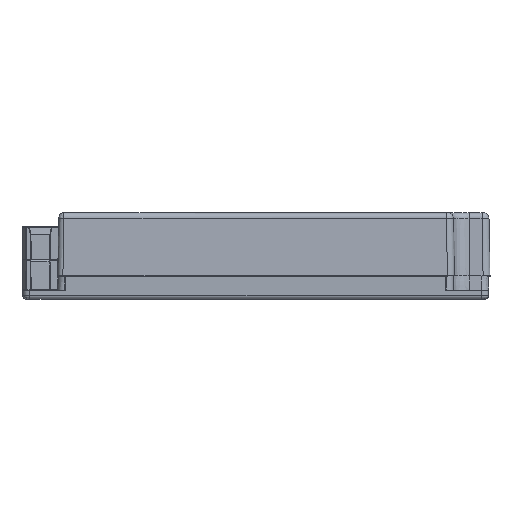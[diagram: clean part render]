
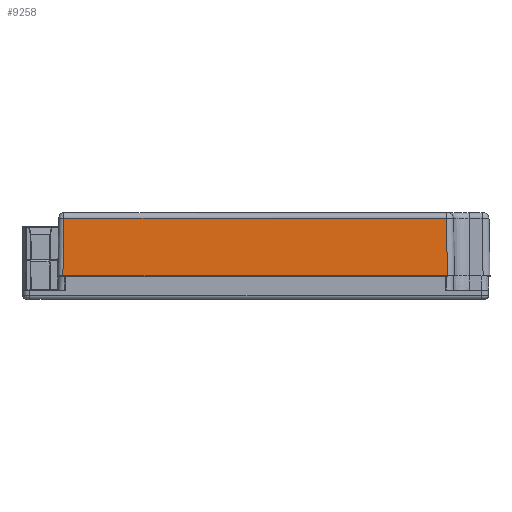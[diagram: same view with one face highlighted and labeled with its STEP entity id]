
A CAD part, top view. The second image highlights one B-rep face of the part: STEP entity #9258.
In plain terms, the highlighted planar face has unit normal (0, 0.018, 1).
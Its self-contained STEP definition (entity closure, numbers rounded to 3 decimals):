
#189 = CARTESIAN_POINT ( 'NONE',  ( 55.28, 23.228, 37.38 ) ) ;
#1562 = VECTOR ( 'NONE', #9361, 1000. ) ;
#2683 = DIRECTION ( 'NONE',  ( -0.017, 1., -0.017 ) ) ;
#6088 = ORIENTED_EDGE ( 'NONE', *, *, #46089, .T. ) ;
#8511 = EDGE_CURVE ( 'NONE', #35225, #41375, #43596, .T. ) ;
#9258 = ADVANCED_FACE ( 'NONE', ( #45735 ), #23434, .T. ) ;
#9327 = DIRECTION ( 'NONE',  ( -0.017, -1., 0.017 ) ) ;
#9361 = DIRECTION ( 'NONE',  ( -1., 0., 0. ) ) ;
#10269 = LINE ( 'NONE', #40746, #49498 ) ;
#10471 = VERTEX_POINT ( 'NONE', #189 ) ;
#13571 = DIRECTION ( 'NONE',  ( 0., -1., 0.017 ) ) ;
#13803 = DIRECTION ( 'NONE',  ( 1., 0., 0. ) ) ;
#15597 = CARTESIAN_POINT ( 'NONE',  ( -55.11, 23.228, 37.38 ) ) ;
#20144 = ORIENTED_EDGE ( 'NONE', *, *, #8511, .T. ) ;
#21600 = CARTESIAN_POINT ( 'NONE',  ( -55.403, 6.433, 37.673 ) ) ;
#22660 = ORIENTED_EDGE ( 'NONE', *, *, #44341, .T. ) ;
#23434 = PLANE ( 'NONE',  #27702 ) ;
#27702 = AXIS2_PLACEMENT_3D ( 'NONE', #53849, #41091, #13571 ) ;
#29378 = CARTESIAN_POINT ( 'NONE',  ( 55.534, 8.703, 37.633 ) ) ;
#33722 = VERTEX_POINT ( 'NONE', #55984 ) ;
#34917 = CARTESIAN_POINT ( 'NONE',  ( -55.4, 6.6, 37.67 ) ) ;
#35225 = VERTEX_POINT ( 'NONE', #15597 ) ;
#39277 = VECTOR ( 'NONE', #9327, 1000. ) ;
#40746 = CARTESIAN_POINT ( 'NONE',  ( -65., 6.6, 37.67 ) ) ;
#40815 = EDGE_LOOP ( 'NONE', ( #48423, #20144, #6088, #22660 ) ) ;
#41091 = DIRECTION ( 'NONE',  ( 0., 0.017, 1. ) ) ;
#41375 = VERTEX_POINT ( 'NONE', #34917 ) ;
#41959 = VECTOR ( 'NONE', #2683, 1000. ) ;
#43596 = LINE ( 'NONE', #21600, #39277 ) ;
#44341 = EDGE_CURVE ( 'NONE', #33722, #10471, #55190, .T. ) ;
#45735 = FACE_OUTER_BOUND ( 'NONE', #40815, .T. ) ;
#46089 = EDGE_CURVE ( 'NONE', #41375, #33722, #10269, .T. ) ;
#48423 = ORIENTED_EDGE ( 'NONE', *, *, #55010, .T. ) ;
#49498 = VECTOR ( 'NONE', #13803, 1000. ) ;
#53167 = CARTESIAN_POINT ( 'NONE',  ( -56.582, 23.228, 37.38 ) ) ;
#53738 = LINE ( 'NONE', #53167, #1562 ) ;
#53849 = CARTESIAN_POINT ( 'NONE',  ( -65., 6.6, 37.67 ) ) ;
#55010 = EDGE_CURVE ( 'NONE', #10471, #35225, #53738, .T. ) ;
#55190 = LINE ( 'NONE', #29378, #41959 ) ;
#55984 = CARTESIAN_POINT ( 'NONE',  ( 55.57, 6.6, 37.67 ) ) ;
